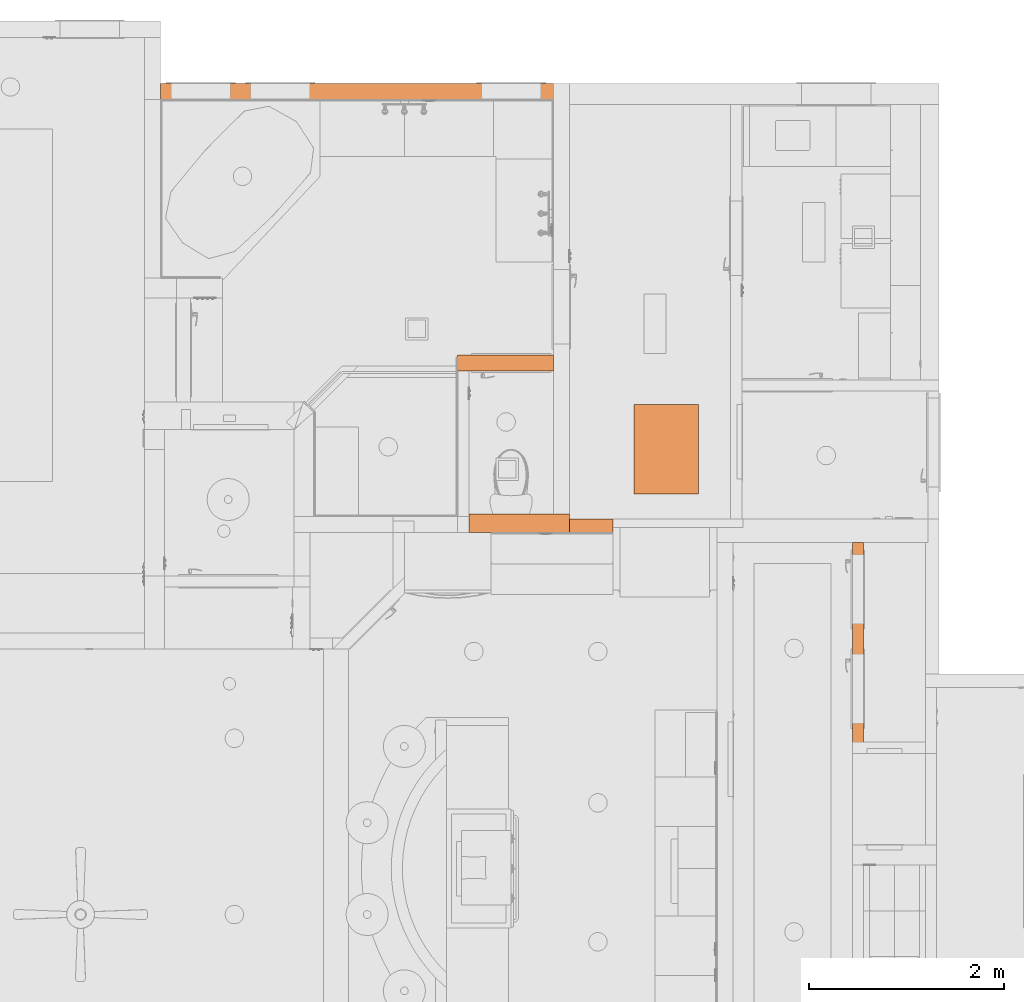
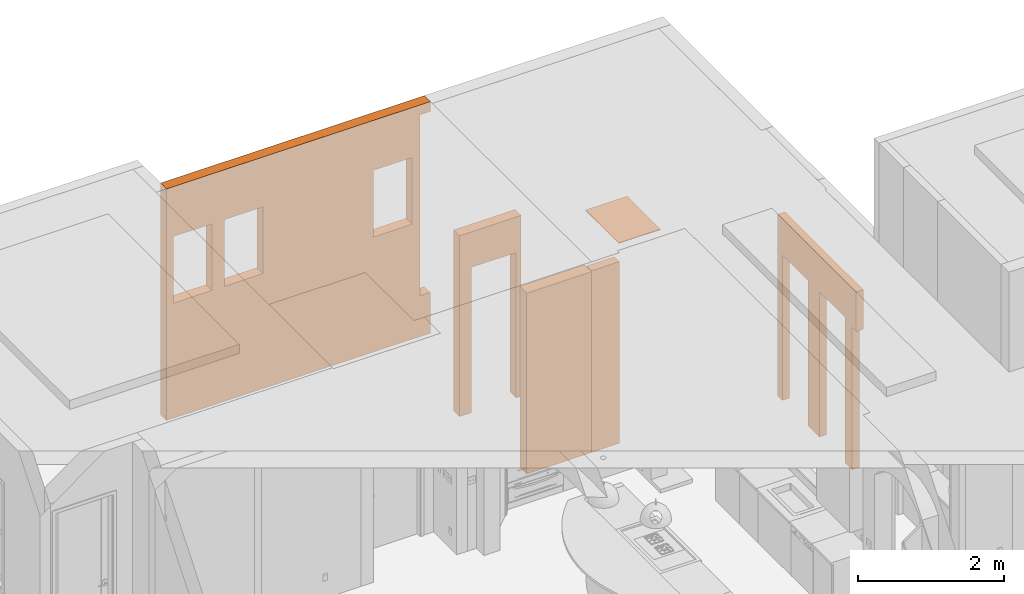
# One storey, part 91 of 103: 6 proxies.
"""IFC2X3 building model written with IfcOpenShell, lengths in inches."""

from ifc_helpers import new_model, entity, si_unit, converted_unit, derived_unit, money_unit, direction, frame, origin_with_axes, place, context, subcontext, project, spatial, faceted_brep, material, type_object, element, save


model = new_model("IFC2X3")

# Units and contexts
model_context = context("Model", 3, precision=0.00039370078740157, world=origin_with_axes(), true_north=direction((0.0, 1.0)))
plan_context = context("Plan", 3, precision=0.00039370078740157, world=origin_with_axes(), true_north=direction((0.0, 1.0)))
body_context = subcontext(model_context, "Body", "Model", "MODEL_VIEW")
ifc_project = project(units=[converted_unit("LENGTHUNIT", "INCH", entity("IfcPositiveLengthMeasure", 0.0254), si_unit("LENGTHUNIT", "METRE"), dimensions=[1, 0, 0, 0, 0, 0, 0]), converted_unit("AREAUNIT", "SQUARE_FOOT", entity("IfcPositiveLengthMeasure", 0.09290304), si_unit("AREAUNIT", "SQUARE_METRE"), dimensions=[2, 0, 0, 0, 0, 0, 0]), si_unit("PLANEANGLEUNIT", "RADIAN"), si_unit("SOLIDANGLEUNIT", "STERADIAN"), money_unit("USD"), converted_unit("TIMEUNIT", "Year", entity("IfcTimeMeasure", 31557600.0), si_unit("TIMEUNIT", "SECOND"), dimensions=[0, 0, 1, 0, 0, 0, 0]), si_unit("MASSUNIT", "GRAM", prefix="KILO"), si_unit("THERMODYNAMICTEMPERATUREUNIT", "DEGREE_CELSIUS"), si_unit("LUMINOUSINTENSITYUNIT", "LUMEN"), si_unit("ENERGYUNIT", "JOULE", prefix="MEGA"), derived_unit("SPECIFICHEATCAPACITYUNIT", [(si_unit("ENERGYUNIT", "JOULE"), 1), (si_unit("MASSUNIT", "GRAM", prefix="KILO"), -1), (si_unit("THERMODYNAMICTEMPERATUREUNIT", "KELVIN"), -1)])], contexts=[model_context, plan_context])

# Site, building, storey
site_placement = place(None, origin_with_axes())
site = spatial("IfcSite", under=ifc_project, at=site_placement, Name="Site", CompositionType="ELEMENT")
building_placement = place(site_placement, origin_with_axes())
building = spatial("IfcBuilding", under=site, at=building_placement, Name="Building", CompositionType="ELEMENT")
storey_placement = place(building_placement, frame((0.0, 0.0, 127.9999999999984), z_axis=(0.0, 0.0, 1.0), x_axis=(1.0, 0.0, 0.0)))
storey = spatial("IfcBuildingStorey", under=building, at=storey_placement, Name="Second Floor", CompositionType="ELEMENT", Elevation=128.0)

# Proxies
ifc_material = material(Name="Generic - Structural")
building_element_proxy_type_1 = type_object("IfcBuildingElementProxyType", Name="Generic - Structural 7 1/2\"", PredefinedType="NOTDEFINED")
proxy_1_placement = place(storey_placement, frame((55.00000000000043, 395.5009092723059, 0.0), z_axis=(0.0, 0.0, 1.0), x_axis=(1.0, -2.620484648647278e-10, 0.0)))
element("IfcBuildingElementProxy", 1, at=proxy_1_placement, inside=storey, type_object=building_element_proxy_type_1, material=ifc_material, Name="SW - 102", context=body_context, shape_type="Brep", body=[
    faceted_brep([(40.50000026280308, 7.500000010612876, 119.4999999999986), (-1.965365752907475e-09, 7.499999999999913, 119.4999999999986), (0.0, 0.0, 119.4999999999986), (40.49999999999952, 1.061296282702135e-08, 119.4999999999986), (40.50000026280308, 7.500000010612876, 0.0), (-1.965365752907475e-09, 7.499999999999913, 0.0), (0.0, 0.0, 0.0), (40.49999999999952, 1.061296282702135e-08, 0.0)], [[[0, 1, 2, 3]], [[4, 5, 1, 0]], [[1, 5, 6, 2]], [[3, 2, 6, 7]], [[7, 4, 0, 3]], [[7, 6, 5, 4]]]),
])
building_element_proxy_type_2 = type_object("IfcBuildingElementProxyType", Name="Generic - Structural 6 1/2\"", PredefinedType="NOTDEFINED")
proxy_2_placement = place(storey_placement, frame((-75.74999999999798, 570.0000000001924, -26.99999999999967), z_axis=(0.0, 0.0, 1.0), x_axis=(1.0, 0.0, 0.0)))
element("IfcBuildingElementProxy", 2, at=proxy_2_placement, inside=storey, type_object=building_element_proxy_type_2, material=ifc_material, Name="SW - 129", context=body_context, shape_type="Brep", body=[
    faceted_brep([(6.49999999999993, 0.0, 0.0), (171.2500061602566, 0.0, 0.0), (171.2499999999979, 0.0, 26.99999999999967), (164.749999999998, 0.0, 26.99999999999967), (164.749999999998, 0.0, 146.4999999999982), (171.2499999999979, 0.0, 146.4999999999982), (171.2500061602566, 0.0, 152.9999999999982), (6.49999999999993, 0.0, 152.9999999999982), (6.49999999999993, 0.0, 50.99999999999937), (70.74998000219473, 0.0, 50.99999999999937), (70.74998000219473, 0.0, 26.99999999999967), (6.49999999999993, 0.0, 26.99999999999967), (159.7499579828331, 0.0, 119.9999999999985), (159.7499579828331, 0.0, 75.99999999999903), (135.7499579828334, 0.0, 75.99999999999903), (135.7499579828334, 0.0, 119.9999999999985), (42.75000663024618, 0.0, 119.9999999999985), (66.75000663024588, 0.0, 119.9999999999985), (66.75000663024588, 0.0, 75.99999999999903), (42.75000663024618, 0.0, 75.99999999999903), (10.75000663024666, 0.0, 75.99999999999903), (10.75000663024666, 0.0, 119.9999999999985), (34.75000663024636, 0.0, 119.9999999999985), (34.75000663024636, 0.0, 75.99999999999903), (171.2500061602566, 6.499999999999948, 0.0), (6.49999999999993, 6.499999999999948, 0.0), (171.2499999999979, 6.500003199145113, 26.99999999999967), (164.749999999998, 6.500003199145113, 26.99999999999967), (164.749999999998, 6.500003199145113, 146.4999999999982), (171.2499999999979, 6.500003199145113, 146.4999999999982), (171.2500061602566, 6.499999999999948, 152.9999999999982), (6.49999999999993, 6.499999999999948, 152.9999999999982), (70.74998016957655, 0.001224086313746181, 50.99999999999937), (70.74998016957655, 0.001224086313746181, 26.99999999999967), (159.7499579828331, 6.500003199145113, 119.9999999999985), (159.7499579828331, 6.500003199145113, 75.99999999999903), (135.7499579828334, 6.500003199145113, 75.99999999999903), (135.7499579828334, 6.500003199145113, 119.9999999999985), (66.75000663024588, 6.499999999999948, 119.9999999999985), (42.75000663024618, 6.499999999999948, 119.9999999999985), (66.75000663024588, 6.499999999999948, 75.99999999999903), (42.75000663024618, 6.499999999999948, 75.99999999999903), (10.75000663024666, 6.500003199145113, 75.99999999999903), (10.75000663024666, 6.500003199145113, 119.9999999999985), (34.75000663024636, 6.500003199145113, 119.9999999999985), (34.75000663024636, 6.500003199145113, 75.99999999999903)], [[[0, 1, 2, 3, 4, 5, 6, 7, 8, 9, 10, 11], [12, 13, 14, 15], [16, 17, 18, 19], [20, 21, 22, 23]], [[24, 1, 0, 25]], [[2, 1, 24, 26]], [[26, 27, 3, 2]], [[28, 4, 3, 27]], [[29, 5, 4, 28]], [[29, 30, 6, 5]], [[6, 30, 31, 7]], [[7, 31, 25, 0, 11, 8]], [[32, 9, 8]], [[32, 33, 10, 9]], [[33, 11, 10]], [[13, 12, 34, 35]], [[14, 13, 35, 36]], [[15, 14, 36, 37]], [[12, 15, 37, 34]], [[38, 17, 16, 39]], [[40, 18, 17, 38]], [[41, 19, 18, 40]], [[39, 16, 19, 41]], [[42, 43, 21, 20]], [[43, 44, 22, 21]], [[44, 45, 23, 22]], [[45, 42, 20, 23]], [[30, 29, 28, 27, 26, 24, 25, 31], [34, 37, 36, 35], [40, 38, 39, 41], [42, 45, 44, 43]], [[8, 11, 33, 32]]]),
])
proxy_3_placement = place(storey_placement, frame((55.00000000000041, 460.5009092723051, 0.0), z_axis=(0.0, 0.0, 1.0), x_axis=(1.0, 0.0, 0.0)))
element("IfcBuildingElementProxy", 3, at=proxy_3_placement, inside=storey, type_object=building_element_proxy_type_2, material=ifc_material, Name="SW - 136", context=body_context, shape_type="Brep", body=[
    faceted_brep([(2.999997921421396, 6.499999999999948, 95.9999999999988), (2.999997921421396, 6.499999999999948, 0.0), (-4.499999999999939, 6.499999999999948, 0.0), (-4.499999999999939, 6.499999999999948, 119.4999999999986), (34.00000252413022, 6.499999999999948, 119.4999999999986), (34.00000252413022, 6.499999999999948, 0.0), (30.99999792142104, 6.499999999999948, 0.0), (30.99999792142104, 6.499999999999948, 95.9999999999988), (2.999997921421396, 0.0, 95.9999999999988), (2.999997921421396, 0.0, 0.0), (-4.499999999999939, 0.0, 0.0), (-4.499999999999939, 0.0, 119.4999999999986), (34.00000229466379, 0.0, 119.4999999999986), (34.00000229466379, 0.0, 0.0), (30.99999792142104, 0.0, 0.0), (30.99999792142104, 0.0, 95.9999999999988)], [[[0, 1, 2, 3, 4, 5, 6, 7]], [[1, 0, 8, 9]], [[1, 9, 10, 2]], [[11, 3, 2, 10]], [[4, 3, 11, 12]], [[12, 13, 5, 4]], [[14, 6, 5, 13]], [[7, 6, 14, 15]], [[0, 7, 15, 8]], [[15, 14, 13, 12, 11, 10, 9, 8]]]),
])
building_element_proxy_type_3 = type_object("IfcBuildingElementProxyType", Name="Generic - Structural 4 1/2\"", PredefinedType="NOTDEFINED")
proxy_4_placement = place(storey_placement, frame((209.499999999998, 306.4999999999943, 0.0), z_axis=(0.0, 0.0, 1.0), x_axis=(0.0, 1.0, 0.0)))
element("IfcBuildingElementProxy", 4, at=proxy_4_placement, inside=storey, type_object=building_element_proxy_type_3, material=ifc_material, Name="SW - 107", context=body_context, shape_type="Brep", body=[
    faceted_brep([(52.00000000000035, -4.499999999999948, 0.0), (52.00000000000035, -4.499999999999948, 95.9999999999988), (80.00000000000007, -4.499999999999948, 95.9999999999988), (80.00000000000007, -4.499999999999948, 0.0), (85.00090926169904, -4.499999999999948, 0.0), (85.00090926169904, -4.499999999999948, 119.9999999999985), (0.0, -4.499999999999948, 119.9999999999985), (0.0, -4.499999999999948, 93.99999999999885), (4.500000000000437, -4.499999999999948, 93.99999999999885), (4.500000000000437, -4.499999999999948, 0.0), (11.99999999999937, -4.499999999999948, 0.0), (11.99999999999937, -4.499999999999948, 95.9999999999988), (39.99999999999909, -4.499999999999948, 95.9999999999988), (39.99999999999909, -4.499999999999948, 0.0), (52.00000000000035, 0.0, 0.0), (52.00000000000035, 0.0, 95.9999999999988), (80.00000000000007, 0.0, 95.9999999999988), (80.00000000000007, 0.0, 0.0), (85.00090926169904, 0.0, 0.0), (85.00090926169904, 0.0, 119.9999999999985), (0.0, 0.0, 119.9999999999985), (0.0, 0.0, 93.99999999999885), (4.500000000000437, 0.0, 93.99999999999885), (4.500000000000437, 0.0, 0.0), (11.99999999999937, 0.0, 0.0), (11.99999999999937, 0.0, 95.9999999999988), (39.99999999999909, 0.0, 95.9999999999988), (39.99999999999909, 0.0, 0.0)], [[[0, 1, 2, 3, 4, 5, 6, 7, 8, 9, 10, 11, 12, 13]], [[1, 0, 14, 15]], [[2, 1, 15, 16]], [[3, 2, 16, 17]], [[3, 17, 18, 4]], [[5, 4, 18, 19]], [[20, 6, 5, 19]], [[7, 6, 20, 21]], [[7, 21, 22, 8]], [[8, 22, 23, 9]], [[10, 9, 23, 24]], [[10, 24, 25, 11]], [[11, 25, 26, 12]], [[12, 26, 27, 13]], [[14, 0, 13, 27]], [[15, 14, 27, 26, 25, 24, 23, 22, 21, 20, 19, 18, 17, 16]]]),
])
building_element_proxy_type_4 = type_object("IfcBuildingElementProxyType", Name="Generic - Structural 5 1/2\"", PredefinedType="NOTDEFINED")
proxy_5_placement = place(storey_placement, frame((95.49983756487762, 401.0009095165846, 0.0), z_axis=(0.0, 0.0, 1.0), x_axis=(0.9999999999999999, -1.413934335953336e-08, 0.0)))
element("IfcBuildingElementProxy", 5, at=proxy_5_placement, inside=storey, type_object=building_element_proxy_type_4, material=ifc_material, Name="SW - 104", context=body_context, shape_type="Brep", body=[
    faceted_brep([(17.50017992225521, -5.49999975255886, 119.9999999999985), (0.0, -5.499999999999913, 119.9999999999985), (0.0001625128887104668, -5.500000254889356, 119.4999999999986), (0.0001625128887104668, -5.500000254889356, 0.0), (17.50017992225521, -5.49999975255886, 0.0), (17.50017984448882, 2.474410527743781e-07, 119.9999999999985), (-7.776638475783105e-08, 0.0, 119.9999999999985), (0.000162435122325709, 0.0, 119.4999999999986), (0.000162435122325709, 0.0, 0.0), (17.50017984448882, 2.474410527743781e-07, 0.0)], [[[0, 1, 2, 3, 4]], [[5, 6, 1, 0]], [[7, 2, 1, 6]], [[2, 7, 8, 3]], [[3, 8, 9, 4]], [[4, 9, 5, 0]], [[9, 8, 7, 6, 5]]]),
])
building_element_proxy_type_5 = type_object("IfcBuildingElementProxyType", Name="Generic - Structural 1/2\"", PredefinedType="NOTDEFINED")
proxy_6_placement = place(storey_placement, frame((121.4999999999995, 447.0009095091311, 119.9999999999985), z_axis=(0.0, 0.0, 1.0), x_axis=(1.0, 0.0, 0.0)))
element("IfcBuildingElementProxy", 6, at=proxy_6_placement, inside=storey, type_object=building_element_proxy_type_5, material=ifc_material, Name="SLA - 008", context=body_context, shape_type="Brep", body=[
    faceted_brep([(0.0, 0.0, 0.0), (0.0, 0.0, -0.4999999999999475), (0.0, -35.99999999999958, -0.4999999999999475), (0.0, -35.99999999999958, 0.0), (25.99999999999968, 0.0, 0.0), (25.99999999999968, 0.0, -0.4999999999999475), (25.99999999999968, -35.99999999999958, -0.4999999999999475), (25.99999999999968, -35.99999999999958, 0.0)], [[[0, 1, 2, 3]], [[4, 5, 1, 0]], [[2, 1, 5, 6]], [[3, 2, 6, 7]], [[4, 0, 3, 7]], [[7, 6, 5, 4]]]),
])

save(model, "model.ifc")
